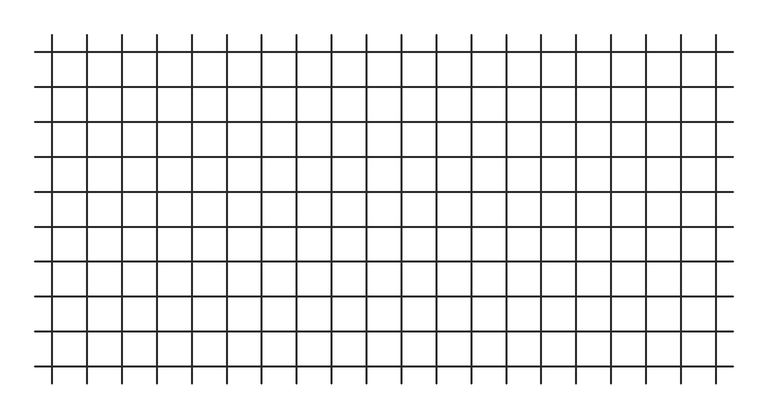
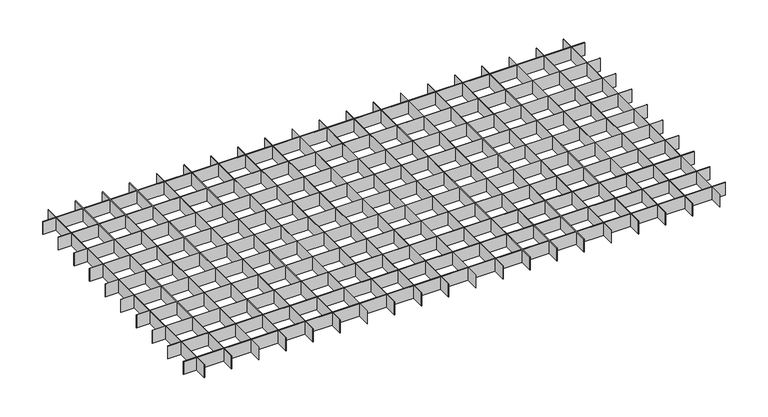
"""IFC4 building model written with IfcOpenShell, lengths in millimetres: proxy geometry, durlum_QUADRA_panel : durlum_QUADRA."""

from ifc_helpers import new_model, si_unit, origin, origin_with_axes, place, context, project, spatial, polyline, outline, extrude, source, transform, mapped, element, save


def generic_models_13372249(model_context):
    return source(origin(), model_context, "Body", "SweptSolid", [
        extrude(outline(polyline([(509.6, 299.5), (510.4, 299.5), (510.4, -299.5), (509.6, -299.5), (509.6, 299.5)])), origin_with_axes(), (0.0, 0.0, 1.0), 30.0),
        extrude(outline(polyline([(449.6, 299.5), (450.4, 299.5), (450.4, -299.5), (449.6, -299.5), (449.6, 299.5)])), origin_with_axes(), (0.0, 0.0, 1.0), 30.0),
        extrude(outline(polyline([(389.6, 299.5), (390.4, 299.5), (390.4, -299.5), (389.6, -299.5), (389.6, 299.5)])), origin_with_axes(), (0.0, 0.0, 1.0), 30.0),
        extrude(outline(polyline([(329.6, 299.5), (330.4, 299.5), (330.4, -299.5), (329.6, -299.5), (329.6, 299.5)])), origin_with_axes(), (0.0, 0.0, 1.0), 30.0),
        extrude(outline(polyline([(269.6, 299.5), (270.4, 299.5), (270.4, -299.5), (269.6, -299.5), (269.6, 299.5)])), origin_with_axes(), (0.0, 0.0, 1.0), 30.0),
        extrude(outline(polyline([(599.5, -209.6), (599.5, -210.4), (-599.5, -210.4), (-599.5, -209.6), (599.5, -209.6)])), origin_with_axes(), (0.0, 0.0, 1.0), 30.0),
        extrude(outline(polyline([(599.5, -149.6), (599.5, -150.4), (-599.5, -150.4), (-599.5, -149.6), (599.5, -149.6)])), origin_with_axes(), (0.0, 0.0, 1.0), 30.0),
        extrude(outline(polyline([(209.6, 299.5), (210.4, 299.5), (210.4, -299.5), (209.6, -299.5), (209.6, 299.5)])), origin_with_axes(), (0.0, 0.0, 1.0), 30.0),
        extrude(outline(polyline([(149.6, 299.5), (150.4, 299.5), (150.4, -299.5), (149.6, -299.5), (149.6, 299.5)])), origin_with_axes(), (0.0, 0.0, 1.0), 30.0),
        extrude(outline(polyline([(89.6, 299.5), (90.4, 299.5), (90.4, -299.5), (89.6, -299.5), (89.6, 299.5)])), origin_with_axes(), (0.0, 0.0, 1.0), 30.0),
        extrude(outline(polyline([(29.6, 299.5), (30.4, 299.5), (30.4, -299.5), (29.6, -299.5), (29.6, 299.5)])), origin_with_axes(), (0.0, 0.0, 1.0), 30.0),
        extrude(outline(polyline([(-30.4, 299.5), (-29.6, 299.5), (-29.6, -299.5), (-30.4, -299.5), (-30.4, 299.5)])), origin_with_axes(), (0.0, 0.0, 1.0), 30.0),
        extrude(outline(polyline([(-90.4, 299.5), (-89.6, 299.5), (-89.6, -299.5), (-90.4, -299.5), (-90.4, 299.5)])), origin_with_axes(), (0.0, 0.0, 1.0), 30.0),
        extrude(outline(polyline([(-150.4, 299.5), (-149.6, 299.5), (-149.6, -299.5), (-150.4, -299.5), (-150.4, 299.5)])), origin_with_axes(), (0.0, 0.0, 1.0), 30.0),
        extrude(outline(polyline([(-210.4, 299.5), (-209.6, 299.5), (-209.6, -299.5), (-210.4, -299.5), (-210.4, 299.5)])), origin_with_axes(), (0.0, 0.0, 1.0), 30.0),
        extrude(outline(polyline([(-270.4, 299.5), (-269.6, 299.5), (-269.6, -299.5), (-270.4, -299.5), (-270.4, 299.5)])), origin_with_axes(), (0.0, 0.0, 1.0), 30.0),
        extrude(outline(polyline([(-330.4, 299.5), (-329.6, 299.5), (-329.6, -299.5), (-330.4, -299.5), (-330.4, 299.5)])), origin_with_axes(), (0.0, 0.0, 1.0), 30.0),
        extrude(outline(polyline([(-390.4, 299.5), (-389.6, 299.5), (-389.6, -299.5), (-390.4, -299.5), (-390.4, 299.5)])), origin_with_axes(), (0.0, 0.0, 1.0), 30.0),
        extrude(outline(polyline([(-450.4, 299.5), (-449.6, 299.5), (-449.6, -299.5), (-450.4, -299.5), (-450.4, 299.5)])), origin_with_axes(), (0.0, 0.0, 1.0), 30.0),
        extrude(outline(polyline([(-510.4, 299.5), (-509.6, 299.5), (-509.6, -299.5), (-510.4, -299.5), (-510.4, 299.5)])), origin_with_axes(), (0.0, 0.0, 1.0), 30.0),
        extrude(outline(polyline([(599.5, -89.6), (599.5, -90.4), (-599.5, -90.4), (-599.5, -89.6), (599.5, -89.6)])), origin_with_axes(), (0.0, 0.0, 1.0), 30.0),
        extrude(outline(polyline([(599.5, -29.6), (599.5, -30.4), (-599.5, -30.4), (-599.5, -29.6), (599.5, -29.6)])), origin_with_axes(), (0.0, 0.0, 1.0), 30.0),
        extrude(outline(polyline([(599.5, 30.4), (599.5, 29.6), (-599.5, 29.6), (-599.5, 30.4), (599.5, 30.4)])), origin_with_axes(), (0.0, 0.0, 1.0), 30.0),
        extrude(outline(polyline([(599.5, 90.4), (599.5, 89.6), (-599.5, 89.6), (-599.5, 90.4), (599.5, 90.4)])), origin_with_axes(), (0.0, 0.0, 1.0), 30.0),
        extrude(outline(polyline([(599.5, 150.4), (599.5, 149.6), (-599.5, 149.6), (-599.5, 150.4), (599.5, 150.4)])), origin_with_axes(), (0.0, 0.0, 1.0), 30.0),
        extrude(outline(polyline([(599.5, 210.4), (599.5, 209.6), (-599.5, 209.6), (-599.5, 210.4), (599.5, 210.4)])), origin_with_axes(), (0.0, 0.0, 1.0), 30.0),
        extrude(outline(polyline([(569.6, 299.5), (570.4, 299.5), (570.4, -299.5), (569.6, -299.5), (569.6, 299.5)])), origin_with_axes(), (0.0, 0.0, 1.0), 30.0),
        extrude(outline(polyline([(-570.4, 299.5), (-569.6, 299.5), (-569.6, -299.5), (-570.4, -299.5), (-570.4, 299.5)])), origin_with_axes(), (0.0, 0.0, 1.0), 30.0),
        extrude(outline(polyline([(599.5, -269.6), (599.5, -270.4), (-599.5, -270.4), (-599.5, -269.6), (599.5, -269.6)])), origin_with_axes(), (0.0, 0.0, 1.0), 30.0),
        extrude(outline(polyline([(599.5, 270.4), (599.5, 269.6), (-599.5, 269.6), (-599.5, 270.4), (599.5, 270.4)])), origin_with_axes(), (0.0, 0.0, 1.0), 30.0),
    ])


if __name__ == "__main__":
    model = new_model("IFC4")
    model_context = context("Model", 3, world=origin())
    ifc_project = project(units=[si_unit("LENGTHUNIT", "METRE", prefix="MILLI")], contexts=[model_context])
    site = spatial("IfcSite", under=ifc_project)
    building = spatial("IfcBuilding", under=site)
    placement = place(None, origin())
    generic_models_shape = generic_models_13372249(model_context)
    element("IfcBuildingElementProxy", 1, Name="durlum_QUADRA_panel : durlum_QUADRA", ObjectType="durlum_QUADRA_panel : durlum_QUADRA", at=placement, inside=building, context=model_context, shape_type="MappedRepresentation", body=[
        mapped(generic_models_shape, transform((0.0, 0.0, 0.0), x_axis=(1.0, 0.0, 0.0), y_axis=(0.0, 1.0, 0.0), z_axis=(0.0, 0.0, 1.0))),
    ])
    save(model, "model.ifc")
